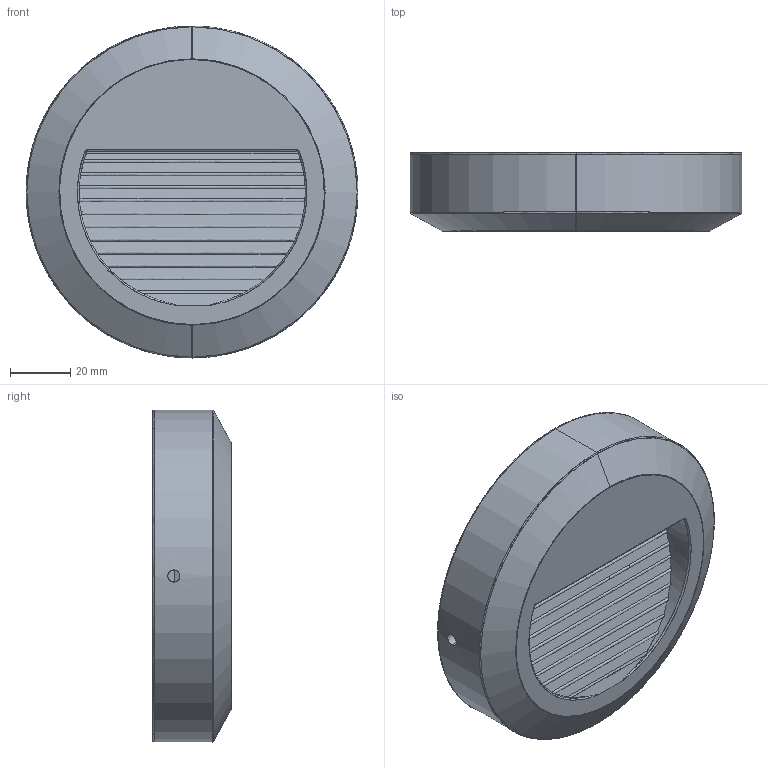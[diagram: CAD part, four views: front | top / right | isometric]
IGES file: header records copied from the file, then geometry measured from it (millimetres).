
Start section: SolidWorks IGES file using analytic representation for surfaces
Global section: file name: F:\GABRYSIA\MODELE 3D\SIDEWALK-ROUND-LED-8147-WWW\SIDEWALK-ROUND-LED-8147.IGS; native system: SolidWorks 2017; preprocessor: SolidWorks 2017; author: Togambi; date: 201202.073444; units: millimetre
Bounding box: 110 x 26 x 110 mm (x, y, z)
Surface area: 64113.5 mm2 (no closed solid volume)
Topology: 0 solids, 0 shells, 120 faces, 2323 edges, 2316 vertices
Faces by surface type: bspline 69, revolution 51
